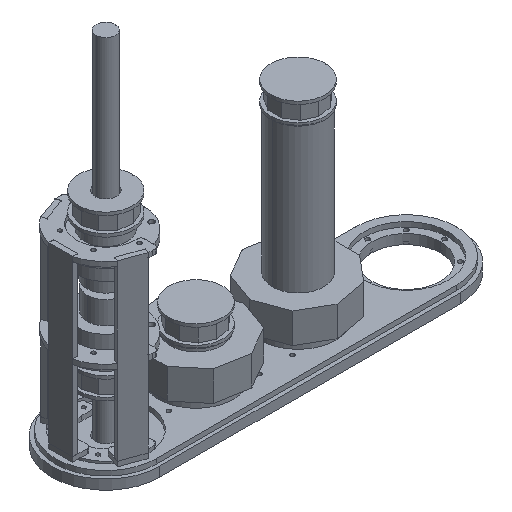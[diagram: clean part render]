
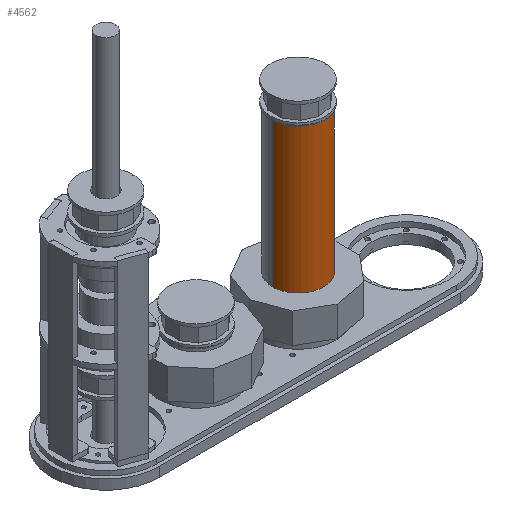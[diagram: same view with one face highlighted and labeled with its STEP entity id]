
A CAD part, isometric view. The second image highlights one B-rep face of the part: STEP entity #4562.
In plain terms, the highlighted cylindrical face has radius 21.5 mm (diameter 43 mm), a partial arc.
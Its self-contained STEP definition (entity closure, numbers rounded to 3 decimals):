
#24 = CIRCLE ( 'NONE', #3407, 21.5 ) ;
#190 = ORIENTED_EDGE ( 'NONE', *, *, #4144, .T. ) ;
#1000 = DIRECTION ( 'NONE',  ( 1., 0., 0. ) ) ;
#1402 = CARTESIAN_POINT ( 'NONE',  ( 13.5, 0., 166.5 ) ) ;
#2882 = VERTEX_POINT ( 'NONE', #11763 ) ;
#3407 = AXIS2_PLACEMENT_3D ( 'NONE', #13373, #5633, #1000 ) ;
#3524 = FACE_OUTER_BOUND ( 'NONE', #13586, .T. ) ;
#3844 = EDGE_CURVE ( 'NONE', #10911, #4816, #4582, .T. ) ;
#3952 = CARTESIAN_POINT ( 'NONE',  ( 35., 0., 166.5 ) ) ;
#4144 = EDGE_CURVE ( 'NONE', #14005, #4816, #24, .T. ) ;
#4400 = ORIENTED_EDGE ( 'NONE', *, *, #11754, .F. ) ;
#4562 = ADVANCED_FACE ( 'NONE', ( #3524 ), #8968, .T. ) ;
#4582 = LINE ( 'NONE', #1402, #10919 ) ;
#4805 = DIRECTION ( 'NONE',  ( 0., 0., 1. ) ) ;
#4816 = VERTEX_POINT ( 'NONE', #7785 ) ;
#5633 = DIRECTION ( 'NONE',  ( 0., 0., -1. ) ) ;
#5720 = EDGE_CURVE ( 'NONE', #2882, #14005, #5960, .T. ) ;
#5927 = ORIENTED_EDGE ( 'NONE', *, *, #3844, .F. ) ;
#5960 = LINE ( 'NONE', #12892, #14515 ) ;
#7360 = CARTESIAN_POINT ( 'NONE',  ( 56.5, 0., 166.5 ) ) ;
#7785 = CARTESIAN_POINT ( 'NONE',  ( 13.5, 0., 166.5 ) ) ;
#8031 = CIRCLE ( 'NONE', #8803, 21.5 ) ;
#8803 = AXIS2_PLACEMENT_3D ( 'NONE', #12654, #13807, #11716 ) ;
#8968 = CYLINDRICAL_SURFACE ( 'NONE', #10646, 21.5 ) ;
#9555 = DIRECTION ( 'NONE',  ( 0., 0., 1. ) ) ;
#10632 = DIRECTION ( 'NONE',  ( 0., 0., 1. ) ) ;
#10646 = AXIS2_PLACEMENT_3D ( 'NONE', #3952, #9555, #11859 ) ;
#10911 = VERTEX_POINT ( 'NONE', #14274 ) ;
#10919 = VECTOR ( 'NONE', #4805, 1000. ) ;
#11716 = DIRECTION ( 'NONE',  ( 1., 0., 0. ) ) ;
#11754 = EDGE_CURVE ( 'NONE', #2882, #10911, #8031, .T. ) ;
#11763 = CARTESIAN_POINT ( 'NONE',  ( 56.5, 0., 45.5 ) ) ;
#11859 = DIRECTION ( 'NONE',  ( 1., 0., 0. ) ) ;
#12351 = ORIENTED_EDGE ( 'NONE', *, *, #5720, .T. ) ;
#12654 = CARTESIAN_POINT ( 'NONE',  ( 35., 0., 45.5 ) ) ;
#12892 = CARTESIAN_POINT ( 'NONE',  ( 56.5, 0., 166.5 ) ) ;
#13373 = CARTESIAN_POINT ( 'NONE',  ( 35., 0., 166.5 ) ) ;
#13586 = EDGE_LOOP ( 'NONE', ( #5927, #4400, #12351, #190 ) ) ;
#13807 = DIRECTION ( 'NONE',  ( 0., 0., -1. ) ) ;
#14005 = VERTEX_POINT ( 'NONE', #7360 ) ;
#14274 = CARTESIAN_POINT ( 'NONE',  ( 13.5, 0., 45.5 ) ) ;
#14515 = VECTOR ( 'NONE', #10632, 1000. ) ;
